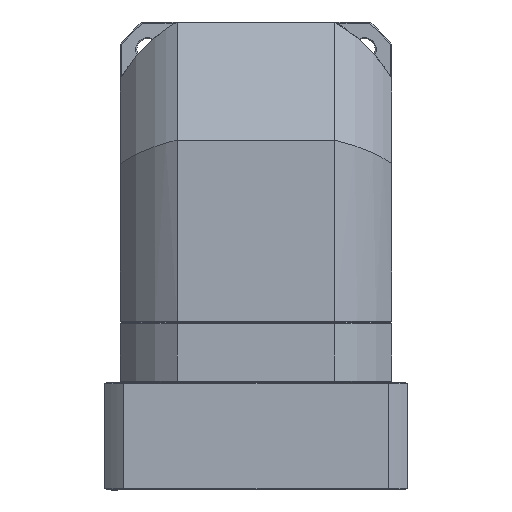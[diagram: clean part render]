
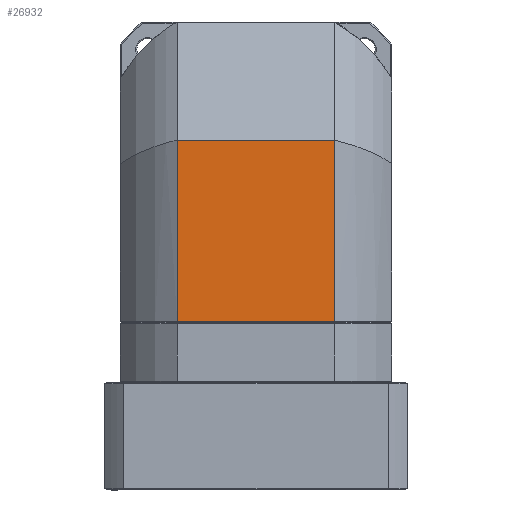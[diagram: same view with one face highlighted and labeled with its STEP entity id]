
A CAD part, front view. The second image highlights one B-rep face of the part: STEP entity #26932.
In plain terms, the highlighted planar face has unit normal (0, 1, 0).
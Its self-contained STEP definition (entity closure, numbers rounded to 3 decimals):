
#2087 = VERTEX_POINT ( 'NONE', #101280 ) ;
#3954 = DIRECTION ( 'NONE',  ( 0., 0., 1. ) ) ;
#4130 = CARTESIAN_POINT ( 'NONE',  ( -33.407, -216.611, -69.2 ) ) ;
#9429 = EDGE_CURVE ( 'NONE', #17961, #102063, #56585, .T. ) ;
#10922 = FACE_OUTER_BOUND ( 'NONE', #49176, .T. ) ;
#12085 = ORIENTED_EDGE ( 'NONE', *, *, #9429, .F. ) ;
#12617 = LINE ( 'NONE', #101889, #72873 ) ;
#12906 = VECTOR ( 'NONE', #94227, 1000. ) ;
#14148 = VERTEX_POINT ( 'NONE', #100385 ) ;
#14231 = CARTESIAN_POINT ( 'NONE',  ( 33.407, -216.611, -69.2 ) ) ;
#15380 = LINE ( 'NONE', #55027, #12906 ) ;
#15628 = EDGE_CURVE ( 'NONE', #14148, #17961, #15380, .T. ) ;
#17961 = VERTEX_POINT ( 'NONE', #14231 ) ;
#22798 = LINE ( 'NONE', #31700, #67094 ) ;
#24792 = AXIS2_PLACEMENT_3D ( 'NONE', #4130, #90746, #43744 ) ;
#26932 = ADVANCED_FACE ( 'NONE', ( #10922 ), #52226, .F. ) ;
#31700 = CARTESIAN_POINT ( 'NONE',  ( -33.407, -216.611, -30.62 ) ) ;
#33704 = ORIENTED_EDGE ( 'NONE', *, *, #15628, .F. ) ;
#35678 = VECTOR ( 'NONE', #3954, 1000. ) ;
#43744 = DIRECTION ( 'NONE',  ( 1., 0., 0. ) ) ;
#44935 = DIRECTION ( 'NONE',  ( 1., 0., 0. ) ) ;
#49176 = EDGE_LOOP ( 'NONE', ( #12085, #33704, #82677, #84539 ) ) ;
#52226 = PLANE ( 'NONE',  #24792 ) ;
#55027 = CARTESIAN_POINT ( 'NONE',  ( 0., -216.611, -69.2 ) ) ;
#56585 = LINE ( 'NONE', #82297, #35678 ) ;
#67094 = VECTOR ( 'NONE', #94637, 1000. ) ;
#71821 = CARTESIAN_POINT ( 'NONE',  ( 33.407, -216.611, 7.5 ) ) ;
#72873 = VECTOR ( 'NONE', #44935, 1000. ) ;
#80153 = EDGE_CURVE ( 'NONE', #14148, #2087, #22798, .T. ) ;
#82297 = CARTESIAN_POINT ( 'NONE',  ( 33.407, -216.611, -30.85 ) ) ;
#82677 = ORIENTED_EDGE ( 'NONE', *, *, #80153, .T. ) ;
#84539 = ORIENTED_EDGE ( 'NONE', *, *, #98667, .T. ) ;
#90746 = DIRECTION ( 'NONE',  ( 0., -1., 0. ) ) ;
#94227 = DIRECTION ( 'NONE',  ( 1., 0., 0. ) ) ;
#94637 = DIRECTION ( 'NONE',  ( 0., 0., 1. ) ) ;
#98667 = EDGE_CURVE ( 'NONE', #2087, #102063, #12617, .T. ) ;
#100385 = CARTESIAN_POINT ( 'NONE',  ( -33.407, -216.611, -69.2 ) ) ;
#101280 = CARTESIAN_POINT ( 'NONE',  ( -33.407, -216.611, 7.5 ) ) ;
#101889 = CARTESIAN_POINT ( 'NONE',  ( 0., -216.611, 7.5 ) ) ;
#102063 = VERTEX_POINT ( 'NONE', #71821 ) ;
